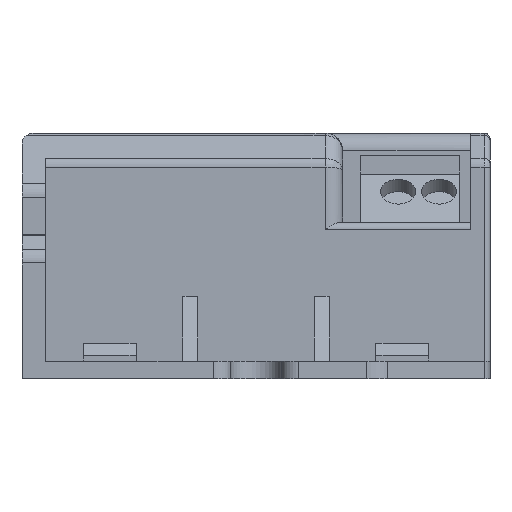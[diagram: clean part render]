
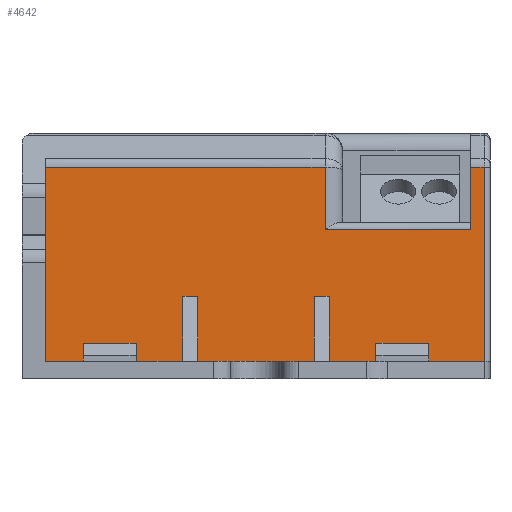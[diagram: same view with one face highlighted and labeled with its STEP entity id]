
A CAD part, front view. The second image highlights one B-rep face of the part: STEP entity #4642.
In plain terms, the highlighted planar face has unit normal (0, -1, 0).
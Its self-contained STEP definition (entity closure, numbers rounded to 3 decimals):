
#346=DIRECTION('',(-1.,0.,0.));
#347=VECTOR('',#346,3.25);
#348=CARTESIAN_POINT('',(-14.75,3.79,1.5));
#349=LINE('',#348,#347);
#374=DIRECTION('',(-1.,0.,0.));
#375=VECTOR('',#374,4.);
#376=CARTESIAN_POINT('',(-6.25,3.79,1.5));
#377=LINE('',#376,#375);
#402=DIRECTION('',(-1.,0.,0.));
#403=VECTOR('',#402,10.);
#404=CARTESIAN_POINT('',(5.,3.79,1.5));
#405=LINE('',#404,#403);
#430=DIRECTION('',(-1.,0.,0.));
#431=VECTOR('',#430,4.);
#432=CARTESIAN_POINT('',(10.25,3.79,1.5));
#433=LINE('',#432,#431);
#458=DIRECTION('',(-1.,0.,0.));
#459=VECTOR('',#458,4.75);
#460=CARTESIAN_POINT('',(19.5,3.79,1.5));
#461=LINE('',#460,#459);
#710=DIRECTION('',(0.,0.,1.));
#711=VECTOR('',#710,16.587);
#712=CARTESIAN_POINT('',(-18.,3.79,1.5));
#713=LINE('',#712,#711);
#1287=DIRECTION('',(0.,0.,-1.));
#1288=VECTOR('',#1287,5.337);
#1289=CARTESIAN_POINT('',(5.9,3.79,18.087));
#1290=LINE('',#1289,#1288);
#1294=DIRECTION('',(1.,0.,0.));
#1295=VECTOR('',#1294,1.16);
#1296=CARTESIAN_POINT('',(18.34,3.79,18.087));
#1297=LINE('',#1296,#1295);
#1301=DIRECTION('',(0.,0.,-1.));
#1302=VECTOR('',#1301,16.587);
#1303=CARTESIAN_POINT('',(19.5,3.79,18.087));
#1304=LINE('',#1303,#1302);
#1308=DIRECTION('',(0.,0.,1.));
#1309=VECTOR('',#1308,1.54);
#1310=CARTESIAN_POINT('',(14.75,3.79,1.5));
#1311=LINE('',#1310,#1309);
#1315=DIRECTION('',(-1.,0.,0.));
#1316=VECTOR('',#1315,4.5);
#1317=CARTESIAN_POINT('',(14.75,3.79,3.04));
#1318=LINE('',#1317,#1316);
#1322=DIRECTION('',(0.,0.,1.));
#1323=VECTOR('',#1322,1.54);
#1324=CARTESIAN_POINT('',(10.25,3.79,1.5));
#1325=LINE('',#1324,#1323);
#1329=DIRECTION('',(0.,0.,1.));
#1330=VECTOR('',#1329,5.54);
#1331=CARTESIAN_POINT('',(6.25,3.79,1.5));
#1332=LINE('',#1331,#1330);
#1336=DIRECTION('',(-1.,0.,0.));
#1337=VECTOR('',#1336,1.25);
#1338=CARTESIAN_POINT('',(6.25,3.79,7.04));
#1339=LINE('',#1338,#1337);
#1343=DIRECTION('',(0.,0.,1.));
#1344=VECTOR('',#1343,5.54);
#1345=CARTESIAN_POINT('',(5.,3.79,1.5));
#1346=LINE('',#1345,#1344);
#1350=DIRECTION('',(0.,0.,1.));
#1351=VECTOR('',#1350,5.54);
#1352=CARTESIAN_POINT('',(-5.,3.79,1.5));
#1353=LINE('',#1352,#1351);
#1357=DIRECTION('',(1.,0.,0.));
#1358=VECTOR('',#1357,1.25);
#1359=CARTESIAN_POINT('',(-6.25,3.79,7.04));
#1360=LINE('',#1359,#1358);
#1364=DIRECTION('',(0.,0.,1.));
#1365=VECTOR('',#1364,5.54);
#1366=CARTESIAN_POINT('',(-6.25,3.79,1.5));
#1367=LINE('',#1366,#1365);
#1371=DIRECTION('',(0.,0.,1.));
#1372=VECTOR('',#1371,1.54);
#1373=CARTESIAN_POINT('',(-10.25,3.79,1.5));
#1374=LINE('',#1373,#1372);
#1378=DIRECTION('',(1.,0.,0.));
#1379=VECTOR('',#1378,4.5);
#1380=CARTESIAN_POINT('',(-14.75,3.79,3.04));
#1381=LINE('',#1380,#1379);
#1385=DIRECTION('',(0.,0.,1.));
#1386=VECTOR('',#1385,1.54);
#1387=CARTESIAN_POINT('',(-14.75,3.79,1.5));
#1388=LINE('',#1387,#1386);
#1392=DIRECTION('',(1.,0.,0.));
#1393=VECTOR('',#1392,23.9);
#1394=CARTESIAN_POINT('',(-18.,3.79,18.087));
#1395=LINE('',#1394,#1393);
#1596=DIRECTION('',(0.,0.,-1.));
#1597=VECTOR('',#1596,5.337);
#1598=CARTESIAN_POINT('',(18.34,3.79,18.087));
#1599=LINE('',#1598,#1597);
#3019=DIRECTION('',(-1.,0.,0.));
#3020=VECTOR('',#3019,12.44);
#3021=CARTESIAN_POINT('',(18.34,3.79,12.75));
#3022=LINE('',#3021,#3020);
#3255=CARTESIAN_POINT('',(-18.,3.79,1.5));
#3257=VERTEX_POINT('',#3255);
#3280=CARTESIAN_POINT('',(-5.,3.79,1.5));
#3282=VERTEX_POINT('',#3280);
#3288=CARTESIAN_POINT('',(-6.25,3.79,1.5));
#3290=VERTEX_POINT('',#3288);
#3295=CARTESIAN_POINT('',(-5.,3.79,7.04));
#3296=VERTEX_POINT('',#3295);
#3297=CARTESIAN_POINT('',(-6.25,3.79,7.04));
#3298=VERTEX_POINT('',#3297);
#3303=CARTESIAN_POINT('',(5.,3.79,7.04));
#3305=VERTEX_POINT('',#3303);
#3311=CARTESIAN_POINT('',(6.25,3.79,7.04));
#3313=VERTEX_POINT('',#3311);
#3319=CARTESIAN_POINT('',(5.,3.79,1.5));
#3320=VERTEX_POINT('',#3319);
#3323=CARTESIAN_POINT('',(6.25,3.79,1.5));
#3324=VERTEX_POINT('',#3323);
#3336=CARTESIAN_POINT('',(-10.25,3.79,1.5));
#3338=VERTEX_POINT('',#3336);
#3344=CARTESIAN_POINT('',(-14.75,3.79,1.5));
#3346=VERTEX_POINT('',#3344);
#3351=CARTESIAN_POINT('',(-10.25,3.79,3.04));
#3352=VERTEX_POINT('',#3351);
#3353=CARTESIAN_POINT('',(-14.75,3.79,3.04));
#3354=VERTEX_POINT('',#3353);
#3369=CARTESIAN_POINT('',(10.25,3.79,3.04));
#3370=VERTEX_POINT('',#3369);
#3377=CARTESIAN_POINT('',(14.75,3.79,3.04));
#3378=VERTEX_POINT('',#3377);
#3383=CARTESIAN_POINT('',(10.25,3.79,1.5));
#3384=VERTEX_POINT('',#3383);
#3387=CARTESIAN_POINT('',(14.75,3.79,1.5));
#3388=VERTEX_POINT('',#3387);
#3547=CARTESIAN_POINT('',(18.34,3.79,18.087));
#3549=VERTEX_POINT('',#3547);
#3559=CARTESIAN_POINT('',(-18.,3.79,18.087));
#3560=VERTEX_POINT('',#3559);
#3563=CARTESIAN_POINT('',(19.5,3.79,18.087));
#3564=CARTESIAN_POINT('',(19.5,3.79,1.5));
#3565=VERTEX_POINT('',#3563);
#3566=VERTEX_POINT('',#3564);
#3639=CARTESIAN_POINT('',(18.34,3.79,12.75));
#3640=VERTEX_POINT('',#3639);
#3733=CARTESIAN_POINT('',(5.9,3.79,18.087));
#3734=CARTESIAN_POINT('',(5.9,3.79,12.75));
#3735=VERTEX_POINT('',#3733);
#3736=VERTEX_POINT('',#3734);
#4594=CARTESIAN_POINT('',(20.,3.79,1.5));
#4595=DIRECTION('',(0.,1.,0.));
#4596=DIRECTION('',(-1.,0.,0.));
#4597=AXIS2_PLACEMENT_3D('',#4594,#4595,#4596);
#4598=PLANE('',#4597);
#4600=ORIENTED_EDGE('',*,*,#4599,.T.);
#4602=ORIENTED_EDGE('',*,*,#4601,.F.);
#4604=ORIENTED_EDGE('',*,*,#4603,.F.);
#4606=ORIENTED_EDGE('',*,*,#4605,.T.);
#4607=ORIENTED_EDGE('',*,*,#4585,.T.);
#4608=ORIENTED_EDGE('',*,*,#3971,.T.);
#4610=ORIENTED_EDGE('',*,*,#4609,.T.);
#4612=ORIENTED_EDGE('',*,*,#4611,.T.);
#4614=ORIENTED_EDGE('',*,*,#4613,.F.);
#4615=ORIENTED_EDGE('',*,*,#3963,.T.);
#4617=ORIENTED_EDGE('',*,*,#4616,.T.);
#4619=ORIENTED_EDGE('',*,*,#4618,.T.);
#4621=ORIENTED_EDGE('',*,*,#4620,.F.);
#4622=ORIENTED_EDGE('',*,*,#3955,.T.);
#4624=ORIENTED_EDGE('',*,*,#4623,.T.);
#4626=ORIENTED_EDGE('',*,*,#4625,.F.);
#4628=ORIENTED_EDGE('',*,*,#4627,.F.);
#4629=ORIENTED_EDGE('',*,*,#3947,.T.);
#4631=ORIENTED_EDGE('',*,*,#4630,.T.);
#4633=ORIENTED_EDGE('',*,*,#4632,.F.);
#4635=ORIENTED_EDGE('',*,*,#4634,.F.);
#4636=ORIENTED_EDGE('',*,*,#3939,.T.);
#4637=ORIENTED_EDGE('',*,*,#4114,.T.);
#4639=ORIENTED_EDGE('',*,*,#4638,.T.);
#4640=EDGE_LOOP('',(#4600,#4602,#4604,#4606,#4607,#4608,#4610,#4612,#4614,#4615,
#4617,#4619,#4621,#4622,#4624,#4626,#4628,#4629,#4631,#4633,#4635,#4636,#4637,
#4639));
#4641=FACE_OUTER_BOUND('',#4640,.F.);
#3939=EDGE_CURVE('',#3346,#3257,#349,.T.);
#3947=EDGE_CURVE('',#3290,#3338,#377,.T.);
#3955=EDGE_CURVE('',#3320,#3282,#405,.T.);
#3963=EDGE_CURVE('',#3384,#3324,#433,.T.);
#3971=EDGE_CURVE('',#3566,#3388,#461,.T.);
#4114=EDGE_CURVE('',#3257,#3560,#713,.T.);
#4585=EDGE_CURVE('',#3565,#3566,#1304,.T.);
#4599=EDGE_CURVE('',#3735,#3736,#1290,.T.);
#4601=EDGE_CURVE('',#3640,#3736,#3022,.T.);
#4603=EDGE_CURVE('',#3549,#3640,#1599,.T.);
#4605=EDGE_CURVE('',#3549,#3565,#1297,.T.);
#4609=EDGE_CURVE('',#3388,#3378,#1311,.T.);
#4611=EDGE_CURVE('',#3378,#3370,#1318,.T.);
#4613=EDGE_CURVE('',#3384,#3370,#1325,.T.);
#4616=EDGE_CURVE('',#3324,#3313,#1332,.T.);
#4618=EDGE_CURVE('',#3313,#3305,#1339,.T.);
#4620=EDGE_CURVE('',#3320,#3305,#1346,.T.);
#4623=EDGE_CURVE('',#3282,#3296,#1353,.T.);
#4625=EDGE_CURVE('',#3298,#3296,#1360,.T.);
#4627=EDGE_CURVE('',#3290,#3298,#1367,.T.);
#4630=EDGE_CURVE('',#3338,#3352,#1374,.T.);
#4632=EDGE_CURVE('',#3354,#3352,#1381,.T.);
#4634=EDGE_CURVE('',#3346,#3354,#1388,.T.);
#4638=EDGE_CURVE('',#3560,#3735,#1395,.T.);
#4642=ADVANCED_FACE('',(#4641),#4598,.F.);
